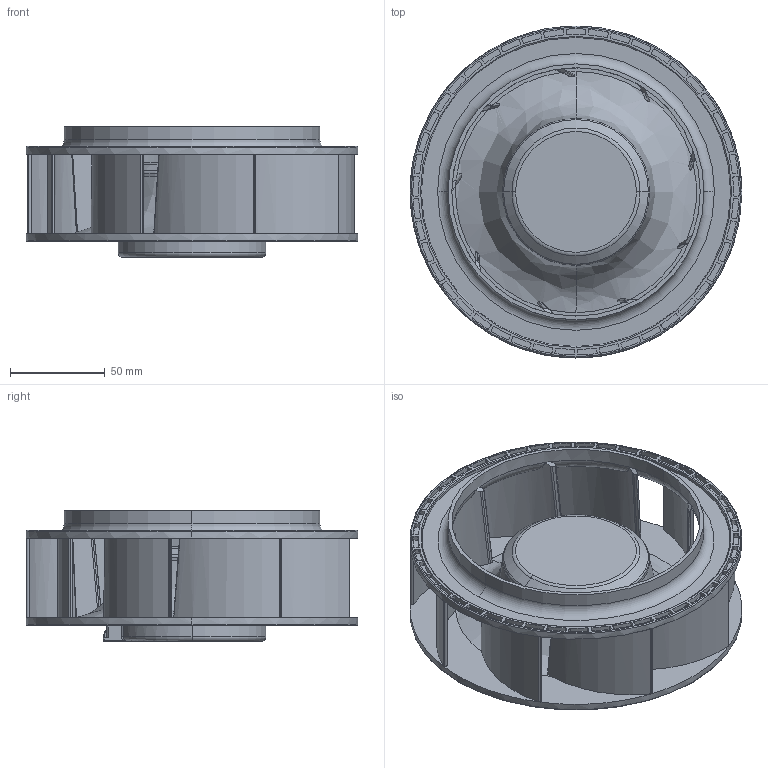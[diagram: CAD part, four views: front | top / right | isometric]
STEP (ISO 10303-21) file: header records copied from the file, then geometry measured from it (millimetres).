
FILE_DESCRIPTION (( 'STEP AP214' ), '1' );
FILE_NAME ('17569TG.STEP', '2017-03-30T10:59:29', ( '' ), ( '' ), 'SwSTEP 2.0', 'SolidWorks 2017', '' );
FILE_SCHEMA (( 'AUTOMOTIVE_DESIGN' ));
Length unit declared in the file: millimetre
Products named in the file (1): 17569TG
Bounding box: 175 x 175 x 69 mm (x, y, z)
Volume: 382586.4 mm3; surface area: 145414.3 mm2
Topology: 1 solids, 1 shells, 1257 faces, 3352 edges, 2175 vertices
Faces by surface type: cylinder 747, plane 341, torus 73, bspline 48, cone 44, sphere 4
Entity records: 41463 total; most frequent: CARTESIAN_POINT 9017, DIRECTION 7307, ORIENTED_EDGE 6692, EDGE_CURVE 3346, AXIS2_PLACEMENT_3D 2950, VERTEX_POINT 2175, CIRCLE 1740, VECTOR 1407
